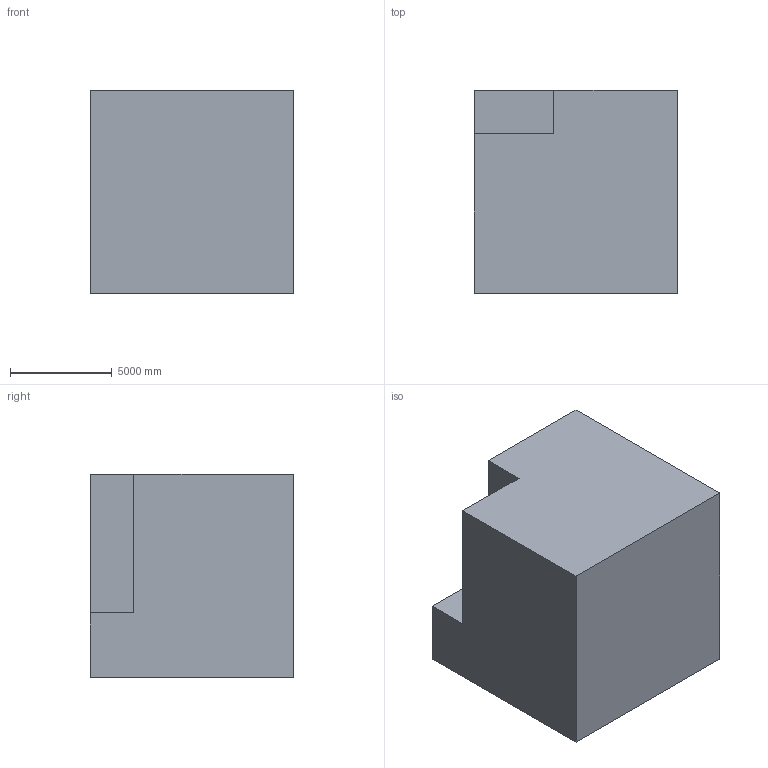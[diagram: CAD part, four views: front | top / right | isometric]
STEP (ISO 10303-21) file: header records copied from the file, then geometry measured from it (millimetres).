
FILE_DESCRIPTION (( 'STEP AP203' ), '1' );
FILE_NAME ('116.STEP', '2022-09-05T15:35:13', ( 'user' ), ( '' ), 'SwSTEP 2.0', 'SolidWorks 2021', '' );
FILE_SCHEMA (( 'CONFIG_CONTROL_DESIGN' ));
Length unit declared in the file: centimetre
Products named in the file (1): 116
Bounding box: 10000 x 10000 x 10000 mm (x, y, z)
Volume: 931571903707.2 mm3; surface area: 618364236.9 mm2
Topology: 1 solids, 1 shells, 13 faces, 30 edges, 20 vertices
Faces by surface type: plane 13
Entity records: 441 total; most frequent: CARTESIAN_POINT 64, ORIENTED_EDGE 60, DIRECTION 58, VECTOR 30, LINE 30, EDGE_CURVE 30, VERTEX_POINT 20, AXIS2_PLACEMENT_3D 14
